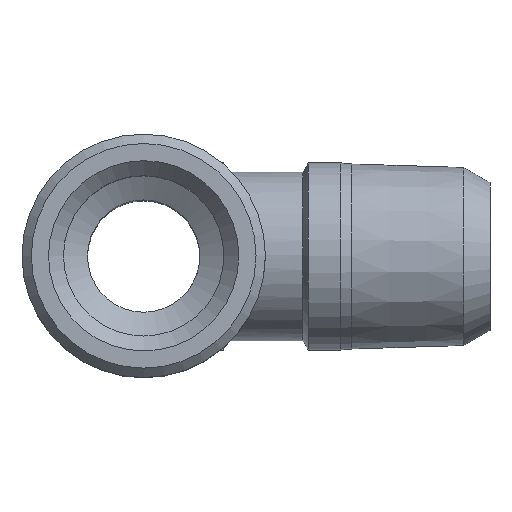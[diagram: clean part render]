
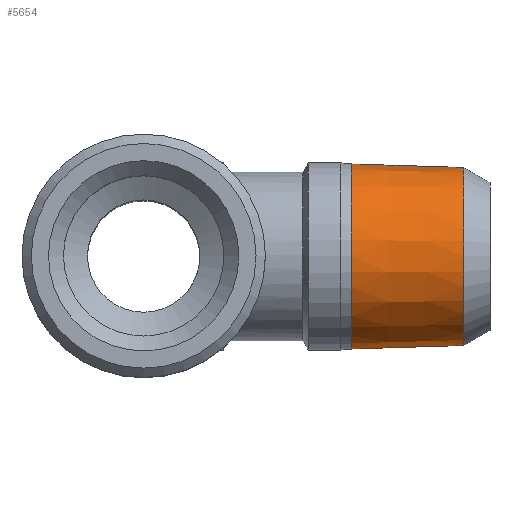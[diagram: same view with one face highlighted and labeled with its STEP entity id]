
A CAD part, top view. The second image highlights one B-rep face of the part: STEP entity #5654.
In plain terms, the highlighted conical face has half-angle 1.79 degrees and reference radius 4.942 mm.
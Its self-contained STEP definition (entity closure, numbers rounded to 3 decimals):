
#1473=CONICAL_SURFACE('',#5556,4.942,1.79);
#1594=ORIENTED_EDGE('',*,*,#1959,.F.);
#1595=ORIENTED_EDGE('',*,*,#1958,.T.);
#1769=CIRCLE('',#5555,4.942);
#1770=CIRCLE('',#5557,4.755);
#1855=VERTEX_POINT('',#5389);
#1856=VERTEX_POINT('',#5392);
#1958=EDGE_CURVE('',#1855,#1855,#1769,.T.);
#1959=EDGE_CURVE('',#1856,#1856,#1770,.T.);
#2049=EDGE_LOOP('',(#1594));
#2050=EDGE_LOOP('',(#1595));
#2135=FACE_BOUND('',#2049,.T.);
#2136=FACE_BOUND('',#2050,.T.);
#2322=DIRECTION('',(1.,0.,0.));
#2323=DIRECTION('',(0.,0.,4.942));
#2324=DIRECTION('',(-1.,0.,0.));
#2325=DIRECTION('',(0.,0.,1.));
#2326=DIRECTION('',(1.,0.,0.));
#2327=DIRECTION('',(0.,0.,4.755));
#5389=CARTESIAN_POINT('',(44.253,42.639,4.942));
#5390=CARTESIAN_POINT('',(44.253,42.639,0.));
#5391=CARTESIAN_POINT('',(44.253,42.639,0.));
#5392=CARTESIAN_POINT('',(50.253,42.639,4.755));
#5393=CARTESIAN_POINT('',(50.253,42.639,0.));
#5555=AXIS2_PLACEMENT_3D('',#5390,#2322,#2323);
#5556=AXIS2_PLACEMENT_3D('',#5391,#2324,#2325);
#5557=AXIS2_PLACEMENT_3D('',#5393,#2326,#2327);
#5654=ADVANCED_FACE('',(#2135,#2136),#1473,.T.);
